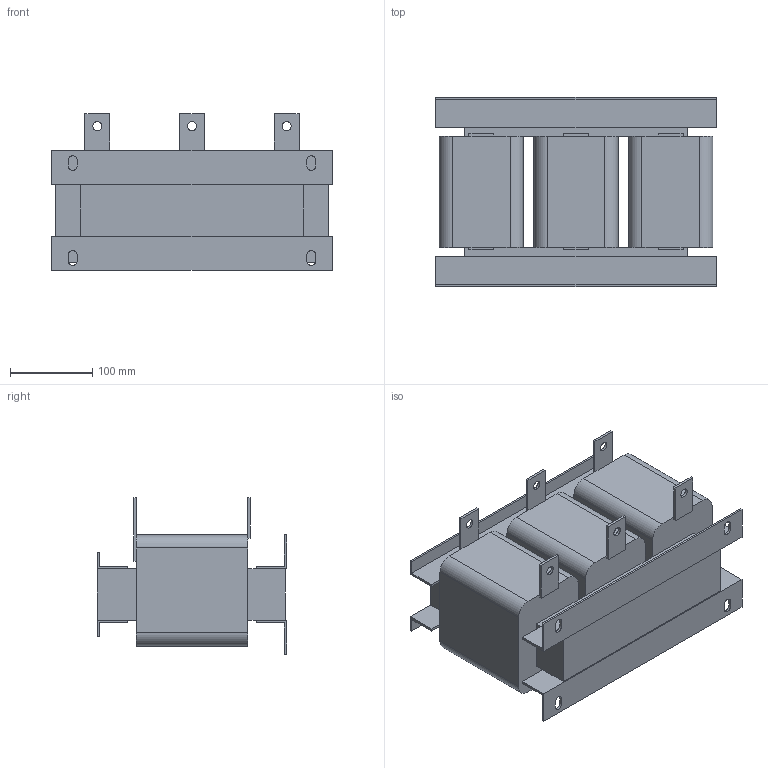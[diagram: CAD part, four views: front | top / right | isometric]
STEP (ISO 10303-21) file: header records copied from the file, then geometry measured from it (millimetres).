
FILE_DESCRIPTION(/* description */ (''),/* implementation_level */ '2;1');
FILE_NAME(/* name */ 'E:\Работа\Веда МК (Данфосс)\!Текущие задачи\2024.08.30 3D модели\Дроссели\ACO 1-проц 660 В\STP\ACO-C-0150-T6.stp',/* time_stamp */ '2024-10-31T15:48:22+04:00',/* author */ ('Александр (огранич)'),/* organization */ (''),/* preprocessor_version */ 'ST-DEVELOPER v18.1',/* originating_system */ 'Autodesk Inventor 2021',/* authorisation */ '');
FILE_SCHEMA (('AUTOMOTIVE_DESIGN { 1 0 10303 214 3 1 1 }'));
Length unit declared in the file: millimetre
Products named in the file (1): ACO-0015-T4-4
Bounding box: 340 x 230 x 190 mm (x, y, z)
Volume: 7363185.3 mm3; surface area: 496220.6 mm2
Topology: 3 solids, 3 shells, 136 faces, 373 edges, 239 vertices
Faces by surface type: plane 110, cylinder 26
Full cylindrical faces by diameter (mm): 11 x6
Entity records: 4327 total; most frequent: CARTESIAN_POINT 749, ORIENTED_EDGE 746, DIRECTION 702, EDGE_CURVE 373, LINE 318, VECTOR 318, VERTEX_POINT 239, AXIS2_PLACEMENT_3D 192
